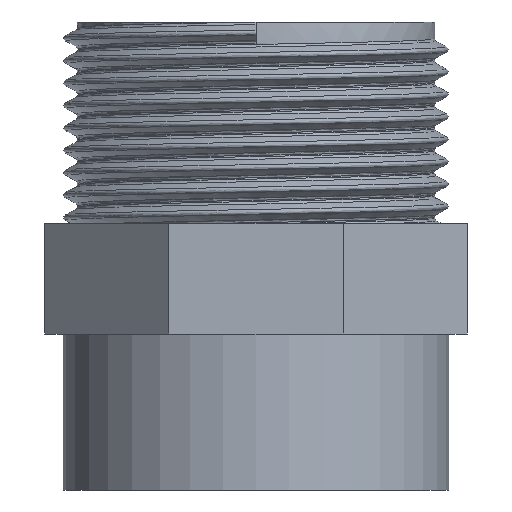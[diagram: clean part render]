
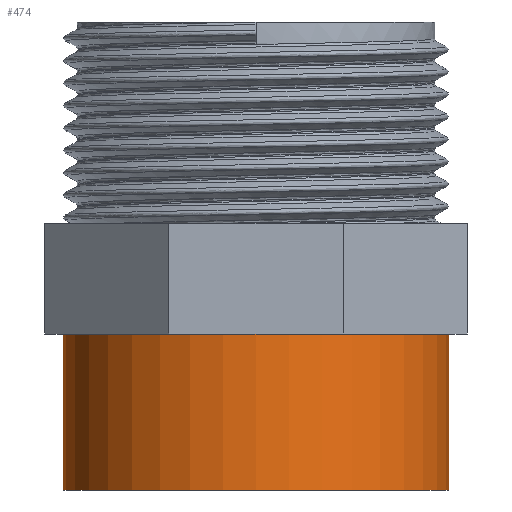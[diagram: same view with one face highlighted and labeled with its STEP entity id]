
A CAD part, front view. The second image highlights one B-rep face of the part: STEP entity #474.
In plain terms, the highlighted cylindrical face has radius 21 mm (diameter 42 mm), a full revolution.
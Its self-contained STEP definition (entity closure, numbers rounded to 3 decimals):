
#15=CYLINDRICAL_SURFACE('',#503,21.);
#21=FACE_BOUND('',#109,.T.);
#49=CIRCLE('',#502,21.);
#50=CIRCLE('',#504,21.);
#77=FACE_OUTER_BOUND('',#108,.T.);
#108=EDGE_LOOP('',(#420));
#109=EDGE_LOOP('',(#421));
#242=VERTEX_POINT('',#7769);
#243=VERTEX_POINT('',#7772);
#306=EDGE_CURVE('',#242,#242,#49,.T.);
#307=EDGE_CURVE('',#243,#243,#50,.T.);
#420=ORIENTED_EDGE('',*,*,#306,.T.);
#421=ORIENTED_EDGE('',*,*,#307,.T.);
#474=ADVANCED_FACE('',(#77,#21),#15,.T.);
#502=AXIS2_PLACEMENT_3D('',#7770,#585,#586);
#503=AXIS2_PLACEMENT_3D('',#7771,#587,#588);
#504=AXIS2_PLACEMENT_3D('',#7773,#589,#590);
#585=DIRECTION('center_axis',(0.,0.,-1.));
#586=DIRECTION('ref_axis',(1.,0.,0.));
#587=DIRECTION('center_axis',(0.,0.,1.));
#588=DIRECTION('ref_axis',(1.,0.,0.));
#589=DIRECTION('center_axis',(0.,0.,1.));
#590=DIRECTION('ref_axis',(1.,0.,0.));
#7769=CARTESIAN_POINT('',(21.,0.,17.));
#7770=CARTESIAN_POINT('Origin',(0.,0.,17.));
#7771=CARTESIAN_POINT('Origin',(0.,0.,14.5));
#7772=CARTESIAN_POINT('',(21.,0.,0.));
#7773=CARTESIAN_POINT('Origin',(0.,0.,0.));
